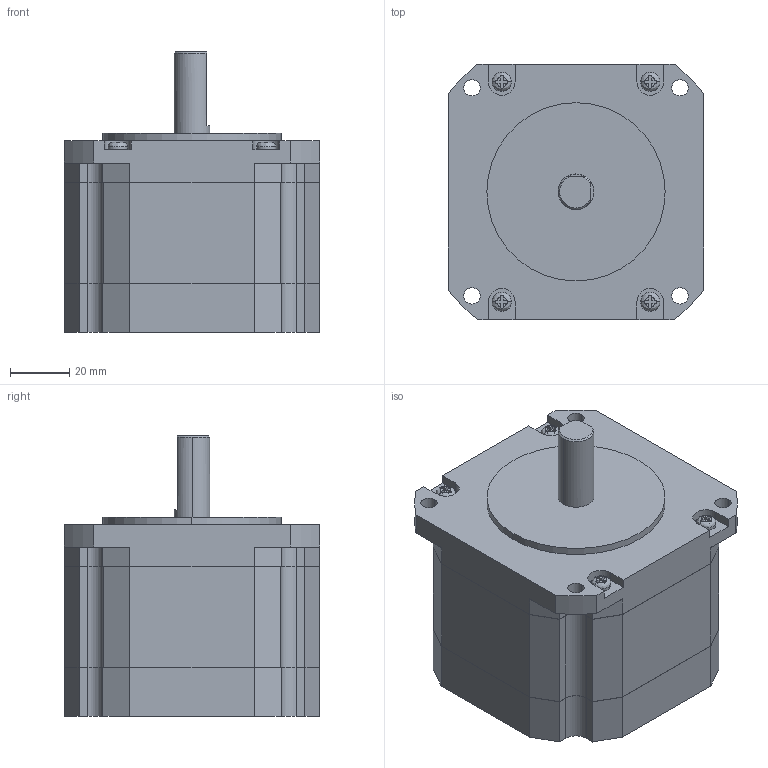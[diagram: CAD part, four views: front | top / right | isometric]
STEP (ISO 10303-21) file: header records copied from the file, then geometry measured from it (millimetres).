
FILE_DESCRIPTION (( 'STEP AP203' ), '1' );
FILE_NAME ('TS3630N1.STEP', '2015-07-17T07:33:16', ( 'hoho' ), ( '' ), 'SwSTEP 2.0', 'SolidWorks 2013', '' );
FILE_SCHEMA (( 'CONFIG_CONTROL_DESIGN' ));
Length unit declared in the file: millimetre
Products named in the file (1): TS3630N1
Bounding box: 86 x 86 x 94.5 mm (x, y, z)
Volume: 435561.2 mm3; surface area: 36531.4 mm2
Topology: 1 solids, 1 shells, 209 faces, 584 edges, 385 vertices
Faces by surface type: plane 138, cylinder 60, bspline 8, cone 3
Entity records: 6910 total; most frequent: CARTESIAN_POINT 1455, ORIENTED_EDGE 1168, DIRECTION 1075, EDGE_CURVE 584, VECTOR 393, LINE 393, VERTEX_POINT 385, AXIS2_PLACEMENT_3D 341
